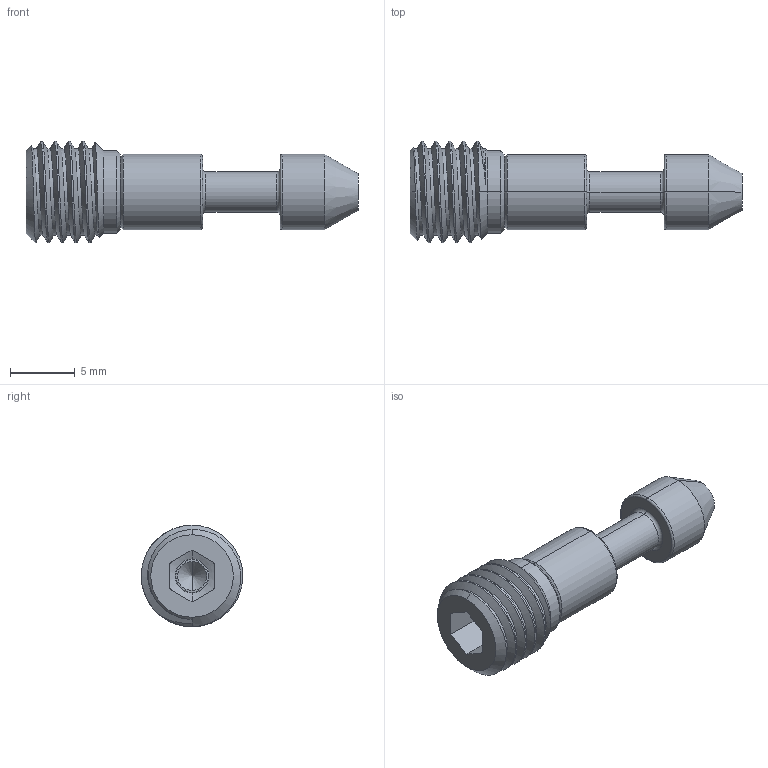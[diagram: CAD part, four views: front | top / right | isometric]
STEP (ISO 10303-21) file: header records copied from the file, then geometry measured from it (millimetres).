
FILE_DESCRIPTION (( 'STEP AP214' ), '1' );
FILE_NAME ('PLAA3124220A_A.STEP', '2021-04-06T19:14:14', ( '' ), ( '' ), 'SwSTEP 2.0', 'SolidWorks 2019', '' );
FILE_SCHEMA (( 'AUTOMOTIVE_DESIGN' ));
Length unit declared in the file: inch
Products named in the file (3): PLAD0100180_E; PLAD0100340_A; PLAA3124220A_A
Assembly tree (2 placements, depth 2):
  PLAA3124220A_A
    PLAD0100340_A
    PLAD0100180_E
Bounding box: 25.55 x 7.81 x 7.82 mm (x, y, z)
Volume: 553.5 mm3; surface area: 741.6 mm2
Topology: 2 solids, 2 shells, 76 faces, 170 edges, 102 vertices
Faces by surface type: cylinder 28, cone 19, plane 16, torus 10, bspline 3
Entity records: 3172 total; most frequent: CARTESIAN_POINT 1405, DIRECTION 365, ORIENTED_EDGE 336, EDGE_CURVE 168, AXIS2_PLACEMENT_3D 149, VERTEX_POINT 102, EDGE_LOOP 84, FACE_OUTER_BOUND 76
